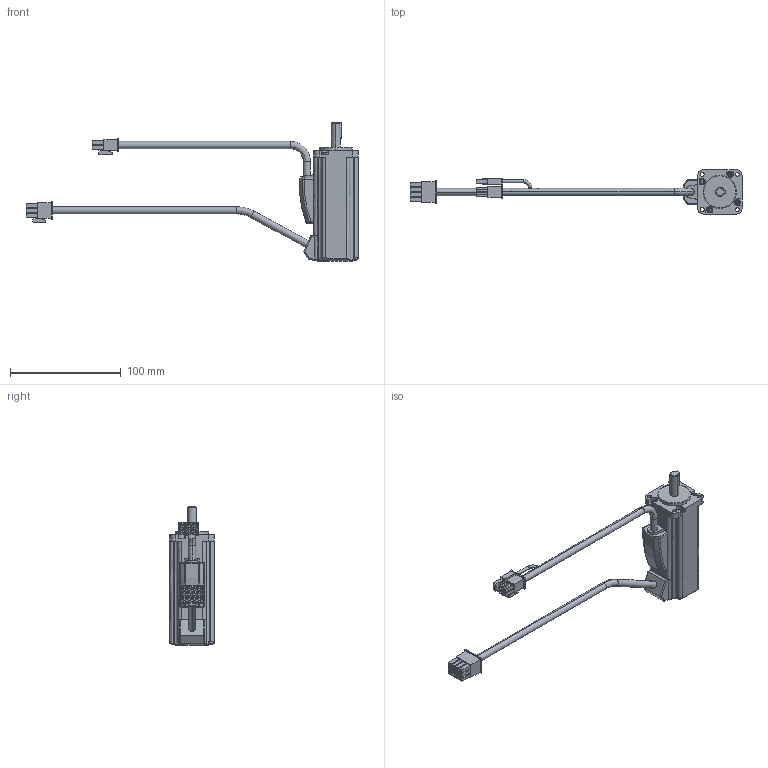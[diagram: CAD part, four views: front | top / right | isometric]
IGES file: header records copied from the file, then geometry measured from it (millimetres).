
Start section:  PTC IGES file: 10001003_rsmz-a5ba_brake.igs
Global section: file name: 10001003_rsmz-a5ba_brake.igs; native system: Pro/ENGINEER by Parametric Technology Corporation; preprocessor: 2004440; author: Administrator; organization: Unknown; date: 070829.201156; units: millimetre
Bounding box: 299.76 x 40 x 125 mm (x, y, z)
Volume: 175621.4 mm3; surface area: 37487.7 mm2
Topology: 1 solids, 1 shells, 529 faces, 1326 edges, 861 vertices
Faces by surface type: bspline 379, revolution 150
